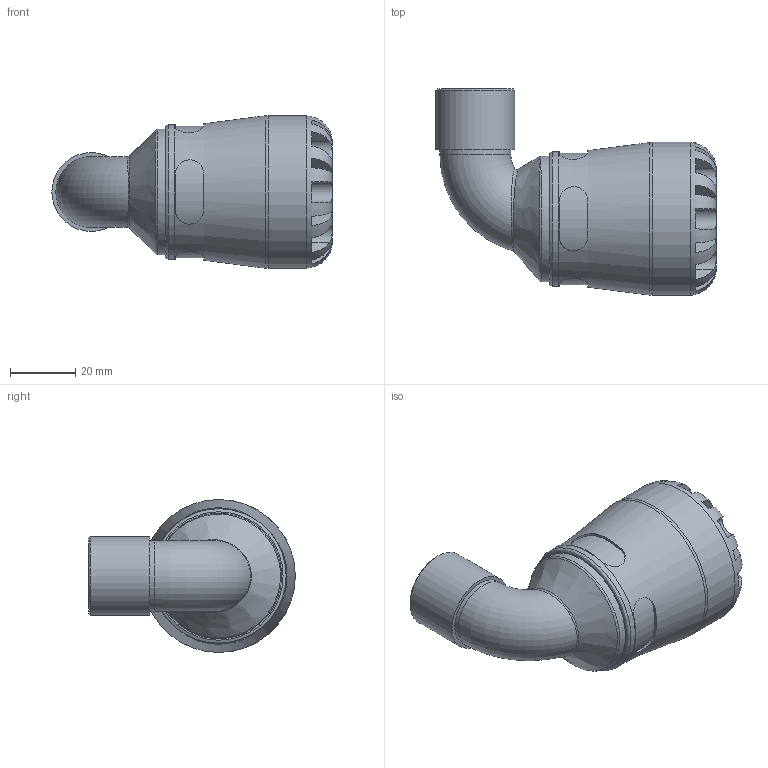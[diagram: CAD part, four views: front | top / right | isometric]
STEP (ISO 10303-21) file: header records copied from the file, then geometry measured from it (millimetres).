
FILE_DESCRIPTION(/* description */ ('PLASSON 90° ELBOW WITH THREADED FEMALE OFFTAKE 25X1/2" SERIES 1'),/* implementation_level */ '2;1');
FILE_NAME(/* name */ 'C:\Dropbox\KIMPROJECTS-Inventor\99-16-3568-Processing\S1\1015\101500025005_191500025005.ipt.stp',/* time_stamp */ '2017-07-30T11:51:55+03:00',/* author */ ('KIM'),/* organization */ (''),/* preprocessor_version */ 'ST-DEVELOPER v15.6',/* originating_system */ 'Autodesk Inventor 2015',/* authorisation */ '');
FILE_SCHEMA (('AUTOMOTIVE_DESIGN { 1 0 10303 214 3 1 1 }'));
Length unit declared in the file: millimetre
Products named in the file (1): 101500025005_191500025005
Bounding box: 86.11 x 63.5 x 47 mm (x, y, z)
Volume: 65991.5 mm3; surface area: 21282.6 mm2
Topology: 1 solids, 1 shells, 110 faces, 266 edges, 165 vertices
Faces by surface type: plane 62, cylinder 37, torus 6, bspline 3, cone 2
Full cylindrical faces by diameter (mm): 16.768 x2, 18.631 x1, 21.798 x1, 24.22 x1, 25 x1, 38.54 x1, 41.36 x1, 47 x1
Entity records: 4180 total; most frequent: CARTESIAN_POINT 1750, ORIENTED_EDGE 488, DIRECTION 487, EDGE_CURVE 244, AXIS2_PLACEMENT_3D 203, VERTEX_POINT 161, EDGE_LOOP 137, FACE_OUTER_BOUND 110
